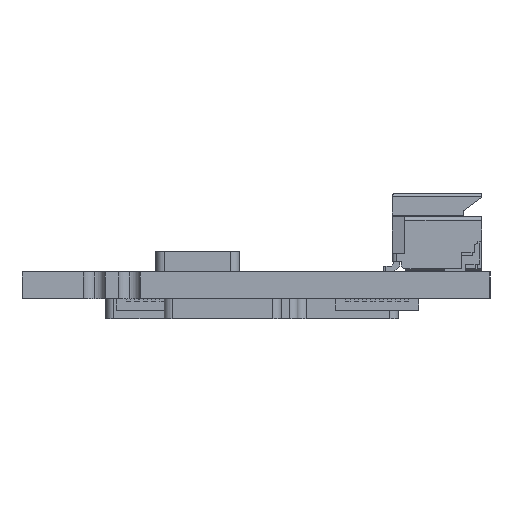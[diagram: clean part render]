
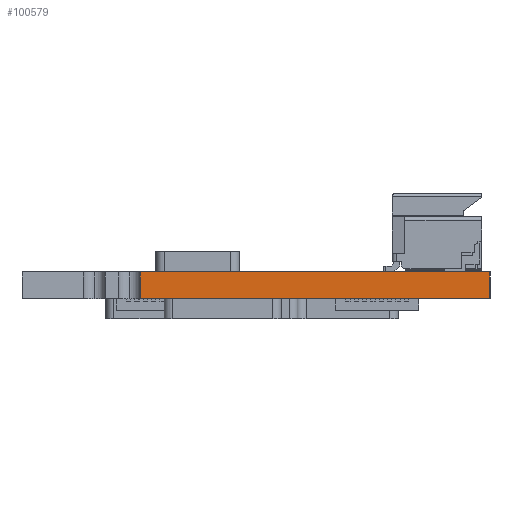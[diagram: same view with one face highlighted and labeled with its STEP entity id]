
A CAD part, left-side view. The second image highlights one B-rep face of the part: STEP entity #100579.
In plain terms, the highlighted planar face has unit normal (-1, 0, 0).
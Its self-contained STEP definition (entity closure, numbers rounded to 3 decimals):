
#822 = CARTESIAN_POINT ( 'NONE',  ( -22.55, -4.075, 0. ) ) ;
#2588 = VERTEX_POINT ( 'NONE', #11934 ) ;
#5138 = VECTOR ( 'NONE', #39993, 1000. ) ;
#10029 = LINE ( 'NONE', #822, #5138 ) ;
#10434 = DIRECTION ( 'NONE',  ( 0., 0., 1. ) ) ;
#10931 = LINE ( 'NONE', #114244, #62744 ) ;
#11934 = CARTESIAN_POINT ( 'NONE',  ( -22.55, 16.848, 0. ) ) ;
#19791 = DIRECTION ( 'NONE',  ( 0., 1., 0. ) ) ;
#21012 = CARTESIAN_POINT ( 'NONE',  ( -22.55, -4.075, 0. ) ) ;
#26611 = EDGE_CURVE ( 'NONE', #64641, #108451, #10931, .T. ) ;
#26771 = DIRECTION ( 'NONE',  ( 0., 0., 1. ) ) ;
#29927 = ORIENTED_EDGE ( 'NONE', *, *, #49632, .F. ) ;
#31344 = ORIENTED_EDGE ( 'NONE', *, *, #88776, .F. ) ;
#36797 = LINE ( 'NONE', #57520, #108357 ) ;
#39993 = DIRECTION ( 'NONE',  ( 0., 1., 0. ) ) ;
#41982 = EDGE_CURVE ( 'NONE', #108451, #2588, #10029, .T. ) ;
#43297 = PLANE ( 'NONE',  #86756 ) ;
#46180 = LINE ( 'NONE', #48578, #67948 ) ;
#48578 = CARTESIAN_POINT ( 'NONE',  ( -22.55, -4.075, -1.6 ) ) ;
#49632 = EDGE_CURVE ( 'NONE', #119308, #2588, #36797, .T. ) ;
#57520 = CARTESIAN_POINT ( 'NONE',  ( -22.55, 16.848, -1.6 ) ) ;
#59307 = EDGE_LOOP ( 'NONE', ( #76491, #59619, #29927, #31344 ) ) ;
#59619 = ORIENTED_EDGE ( 'NONE', *, *, #41982, .T. ) ;
#62744 = VECTOR ( 'NONE', #67769, 1000. ) ;
#64641 = VERTEX_POINT ( 'NONE', #120245 ) ;
#67769 = DIRECTION ( 'NONE',  ( 0., 0., 1. ) ) ;
#67948 = VECTOR ( 'NONE', #19791, 1000. ) ;
#73200 = FACE_OUTER_BOUND ( 'NONE', #59307, .T. ) ;
#76491 = ORIENTED_EDGE ( 'NONE', *, *, #26611, .T. ) ;
#80558 = DIRECTION ( 'NONE',  ( -1., 0., 0. ) ) ;
#86756 = AXIS2_PLACEMENT_3D ( 'NONE', #119651, #80558, #26771 ) ;
#88776 = EDGE_CURVE ( 'NONE', #64641, #119308, #46180, .T. ) ;
#100579 = ADVANCED_FACE ( 'NONE', ( #73200 ), #43297, .T. ) ;
#108357 = VECTOR ( 'NONE', #10434, 1000. ) ;
#108451 = VERTEX_POINT ( 'NONE', #21012 ) ;
#114244 = CARTESIAN_POINT ( 'NONE',  ( -22.55, -4.075, -1.6 ) ) ;
#117670 = CARTESIAN_POINT ( 'NONE',  ( -22.55, 16.848, -1.6 ) ) ;
#119308 = VERTEX_POINT ( 'NONE', #117670 ) ;
#119651 = CARTESIAN_POINT ( 'NONE',  ( -22.55, -4.075, -1.6 ) ) ;
#120245 = CARTESIAN_POINT ( 'NONE',  ( -22.55, -4.075, -1.6 ) ) ;
